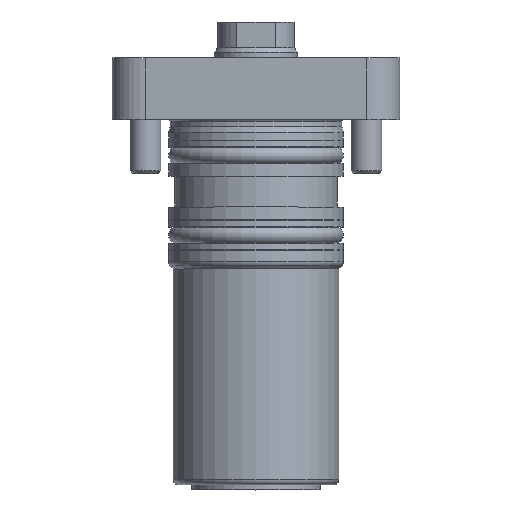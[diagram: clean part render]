
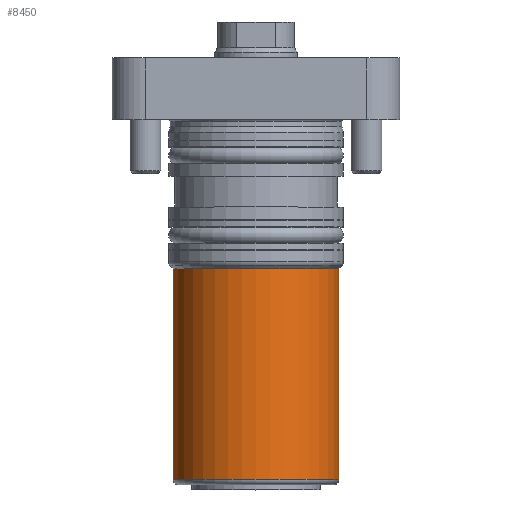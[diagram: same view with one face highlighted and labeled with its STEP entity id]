
A CAD part, top view. The second image highlights one B-rep face of the part: STEP entity #8450.
In plain terms, the highlighted cylindrical face has radius 16.1 mm (diameter 32.2 mm), a partial arc.
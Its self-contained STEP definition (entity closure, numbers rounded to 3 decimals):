
#48 = CARTESIAN_POINT ( 'NONE',  ( 16.1, 40.193, 0. ) ) ;
#859 = CARTESIAN_POINT ( 'NONE',  ( 0., 40.193, 0. ) ) ;
#1378 = EDGE_CURVE ( 'NONE', #7862, #9068, #7438, .T. ) ;
#1742 = DIRECTION ( 'NONE',  ( -1., 0., 0. ) ) ;
#1911 = LINE ( 'NONE', #7437, #4256 ) ;
#2120 = ORIENTED_EDGE ( 'NONE', *, *, #4386, .T. ) ;
#2199 = DIRECTION ( 'NONE',  ( -1., 0., 0. ) ) ;
#3658 = FACE_OUTER_BOUND ( 'NONE', #8777, .T. ) ;
#4019 = VECTOR ( 'NONE', #7004, 1000. ) ;
#4189 = AXIS2_PLACEMENT_3D ( 'NONE', #4968, #4875, #12774 ) ;
#4256 = VECTOR ( 'NONE', #5496, 1000. ) ;
#4386 = EDGE_CURVE ( 'NONE', #7542, #7637, #10344, .T. ) ;
#4875 = DIRECTION ( 'NONE',  ( 0., 1., 0. ) ) ;
#4968 = CARTESIAN_POINT ( 'NONE',  ( 0., 2., 0. ) ) ;
#5009 = CARTESIAN_POINT ( 'NONE',  ( 16.1, 43., 0. ) ) ;
#5446 = EDGE_CURVE ( 'NONE', #7637, #9068, #6964, .T. ) ;
#5496 = DIRECTION ( 'NONE',  ( 0., 1., 0. ) ) ;
#6029 = ORIENTED_EDGE ( 'NONE', *, *, #1378, .F. ) ;
#6138 = DIRECTION ( 'NONE',  ( 0., 1., 0. ) ) ;
#6685 = DIRECTION ( 'NONE',  ( 0., 1., 0. ) ) ;
#6964 = LINE ( 'NONE', #48, #4019 ) ;
#7004 = DIRECTION ( 'NONE',  ( 0., 1., 0. ) ) ;
#7437 = CARTESIAN_POINT ( 'NONE',  ( -16.1, 40.193, 0. ) ) ;
#7438 = CIRCLE ( 'NONE', #11988, 16.1 ) ;
#7542 = VERTEX_POINT ( 'NONE', #11513 ) ;
#7637 = VERTEX_POINT ( 'NONE', #12573 ) ;
#7862 = VERTEX_POINT ( 'NONE', #8577 ) ;
#8450 = ADVANCED_FACE ( 'NONE', ( #3658 ), #9065, .T. ) ;
#8577 = CARTESIAN_POINT ( 'NONE',  ( -16.1, 43., 0. ) ) ;
#8777 = EDGE_LOOP ( 'NONE', ( #2120, #11297, #6029, #9597 ) ) ;
#8993 = CARTESIAN_POINT ( 'NONE',  ( 0., 43., 0. ) ) ;
#9065 = CYLINDRICAL_SURFACE ( 'NONE', #12266, 16.1 ) ;
#9068 = VERTEX_POINT ( 'NONE', #5009 ) ;
#9597 = ORIENTED_EDGE ( 'NONE', *, *, #10403, .F. ) ;
#10344 = CIRCLE ( 'NONE', #4189, 16.1 ) ;
#10403 = EDGE_CURVE ( 'NONE', #7542, #7862, #1911, .T. ) ;
#11297 = ORIENTED_EDGE ( 'NONE', *, *, #5446, .T. ) ;
#11513 = CARTESIAN_POINT ( 'NONE',  ( -16.1, 2., 0. ) ) ;
#11988 = AXIS2_PLACEMENT_3D ( 'NONE', #8993, #6138, #2199 ) ;
#12266 = AXIS2_PLACEMENT_3D ( 'NONE', #859, #6685, #1742 ) ;
#12573 = CARTESIAN_POINT ( 'NONE',  ( 16.1, 2., 0. ) ) ;
#12774 = DIRECTION ( 'NONE',  ( -1., 0., 0. ) ) ;
